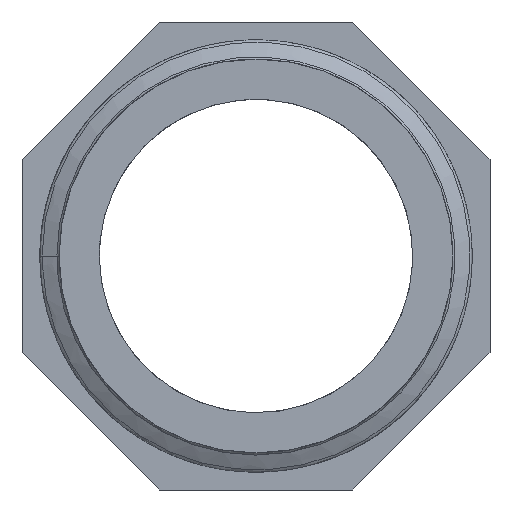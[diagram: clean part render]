
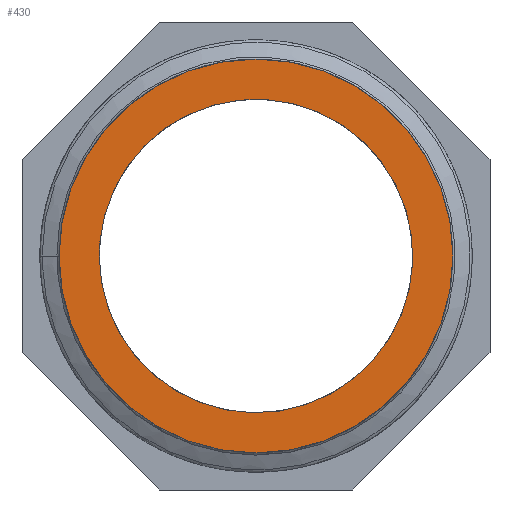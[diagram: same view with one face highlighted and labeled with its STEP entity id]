
A CAD part, front view. The second image highlights one B-rep face of the part: STEP entity #430.
In plain terms, the highlighted planar face has unit normal (0, -1, 0).
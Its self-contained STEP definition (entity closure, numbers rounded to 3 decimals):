
#17=FACE_BOUND('',#93,.T.);
#32=PLANE('',#455);
#37=CIRCLE('',#439,15.146);
#41=CIRCLE('',#454,12.059);
#65=FACE_OUTER_BOUND('',#92,.T.);
#92=EDGE_LOOP('',(#382));
#93=EDGE_LOOP('',(#383));
#186=VERTEX_POINT('',#2570);
#216=VERTEX_POINT('',#7128);
#234=EDGE_CURVE('',#186,#186,#37,.T.);
#276=EDGE_CURVE('',#216,#216,#41,.T.);
#382=ORIENTED_EDGE('',*,*,#234,.T.);
#383=ORIENTED_EDGE('',*,*,#276,.T.);
#430=ADVANCED_FACE('',(#65,#17),#32,.F.);
#439=AXIS2_PLACEMENT_3D('',#3760,#472,#473);
#454=AXIS2_PLACEMENT_3D('',#7129,#529,#530);
#455=AXIS2_PLACEMENT_3D('',#7130,#531,#532);
#472=DIRECTION('center_axis',(0.,-1.,0.));
#473=DIRECTION('ref_axis',(1.,0.,0.));
#529=DIRECTION('center_axis',(0.,1.,0.));
#530=DIRECTION('ref_axis',(1.,0.,0.));
#531=DIRECTION('center_axis',(0.,1.,0.));
#532=DIRECTION('ref_axis',(0.,0.,1.));
#2570=CARTESIAN_POINT('',(-15.146,0.,0.));
#3760=CARTESIAN_POINT('Origin',(0.,0.,0.));
#7128=CARTESIAN_POINT('',(-12.059,0.,0.));
#7129=CARTESIAN_POINT('Origin',(0.,0.,0.));
#7130=CARTESIAN_POINT('Origin',(0.,0.,0.));
